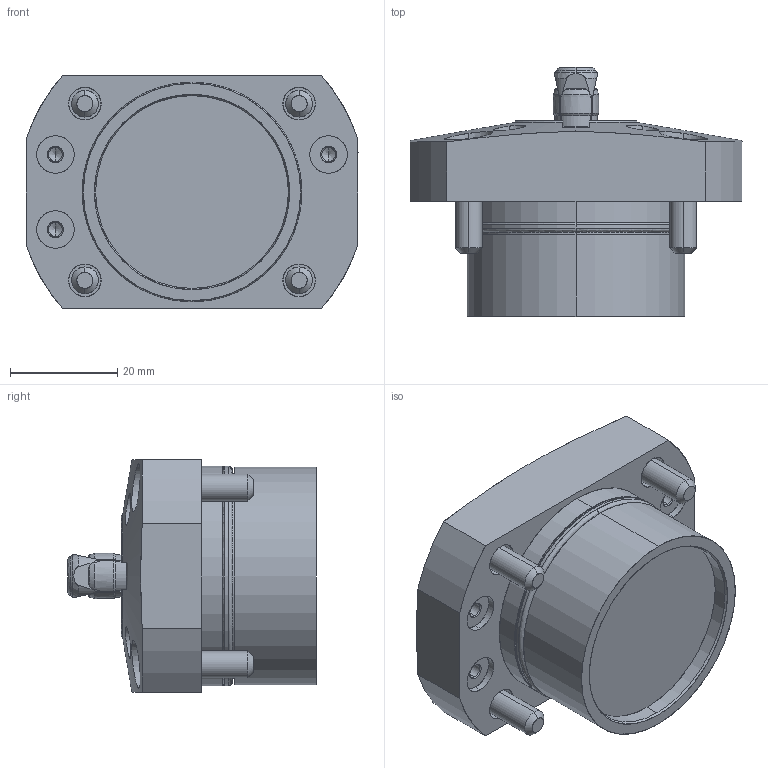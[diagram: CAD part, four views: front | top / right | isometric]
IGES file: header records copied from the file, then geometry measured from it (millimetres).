
Start section: SolidWorks IGES file using analytic representation for surfaces
Global section: file name: L:\電子カタログ-3Ｄ\SFH\ｱｾﾝﾌﾞﾘ\SFH2090_N.IGS; native system: SolidWorks 2010; preprocessor: SolidWorks 2010; author: D214; date: 101104.080521; units: millimetre
Bounding box: 62 x 46.5 x 43.5 mm (x, y, z)
Surface area: 20751.3 mm2 (no closed solid volume)
Topology: 0 solids, 0 shells, 478 faces, 6231 edges, 6207 vertices
Faces by surface type: revolution 274, bspline 204
